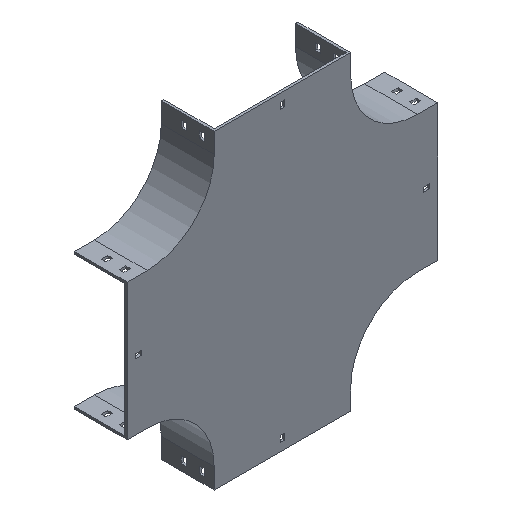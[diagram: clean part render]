
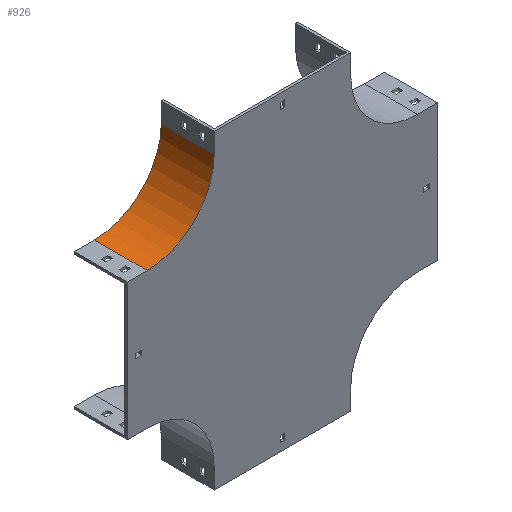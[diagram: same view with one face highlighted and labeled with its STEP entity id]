
A CAD part, isometric view. The second image highlights one B-rep face of the part: STEP entity #926.
In plain terms, the highlighted cylindrical face has radius 100 mm (diameter 200 mm), a partial arc.
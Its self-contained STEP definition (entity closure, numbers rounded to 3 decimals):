
#116 = VERTEX_POINT ( 'NONE', #2611 ) ;
#272 = DIRECTION ( 'NONE',  ( 0., 0., 1. ) ) ;
#308 = EDGE_LOOP ( 'NONE', ( #2560, #1340, #1933, #2970 ) ) ;
#318 = EDGE_CURVE ( 'NONE', #116, #3493, #2922, .T. ) ;
#377 = FACE_OUTER_BOUND ( 'NONE', #308, .T. ) ;
#576 = CIRCLE ( 'NONE', #705, 100. ) ;
#580 = CARTESIAN_POINT ( 'NONE',  ( -404., 79., 0. ) ) ;
#705 = AXIS2_PLACEMENT_3D ( 'NONE', #3594, #2908, #272 ) ;
#723 = DIRECTION ( 'NONE',  ( 0., -1., 0. ) ) ;
#806 = VERTEX_POINT ( 'NONE', #2766 ) ;
#926 = ADVANCED_FACE ( 'NONE', ( #377 ), #3619, .F. ) ;
#1139 = CARTESIAN_POINT ( 'NONE',  ( -404., 0., -100. ) ) ;
#1235 = LINE ( 'NONE', #1492, #2818 ) ;
#1340 = ORIENTED_EDGE ( 'NONE', *, *, #3074, .F. ) ;
#1455 = CARTESIAN_POINT ( 'NONE',  ( -304., 79., 0. ) ) ;
#1492 = CARTESIAN_POINT ( 'NONE',  ( -404., 79., -100. ) ) ;
#1660 = EDGE_CURVE ( 'NONE', #1955, #806, #576, .T. ) ;
#1710 = LINE ( 'NONE', #1455, #3121 ) ;
#1933 = ORIENTED_EDGE ( 'NONE', *, *, #318, .F. ) ;
#1955 = VERTEX_POINT ( 'NONE', #1139 ) ;
#2108 = AXIS2_PLACEMENT_3D ( 'NONE', #580, #3320, #3550 ) ;
#2155 = DIRECTION ( 'NONE',  ( 0., 0., 1. ) ) ;
#2221 = CARTESIAN_POINT ( 'NONE',  ( -304., 79., 0. ) ) ;
#2258 = EDGE_CURVE ( 'NONE', #116, #1955, #1235, .T. ) ;
#2560 = ORIENTED_EDGE ( 'NONE', *, *, #1660, .T. ) ;
#2611 = CARTESIAN_POINT ( 'NONE',  ( -404., 79., -100. ) ) ;
#2681 = DIRECTION ( 'NONE',  ( 0., -1., 0. ) ) ;
#2766 = CARTESIAN_POINT ( 'NONE',  ( -304., 0., 0. ) ) ;
#2818 = VECTOR ( 'NONE', #2681, 1000. ) ;
#2908 = DIRECTION ( 'NONE',  ( 0., -1., 0. ) ) ;
#2922 = CIRCLE ( 'NONE', #3442, 100. ) ;
#2970 = ORIENTED_EDGE ( 'NONE', *, *, #2258, .T. ) ;
#3074 = EDGE_CURVE ( 'NONE', #3493, #806, #1710, .T. ) ;
#3111 = CARTESIAN_POINT ( 'NONE',  ( -404., 79., 0. ) ) ;
#3121 = VECTOR ( 'NONE', #3204, 1000. ) ;
#3204 = DIRECTION ( 'NONE',  ( 0., -1., 0. ) ) ;
#3320 = DIRECTION ( 'NONE',  ( 0., -1., 0. ) ) ;
#3442 = AXIS2_PLACEMENT_3D ( 'NONE', #3111, #723, #2155 ) ;
#3493 = VERTEX_POINT ( 'NONE', #2221 ) ;
#3550 = DIRECTION ( 'NONE',  ( 0., 0., -1. ) ) ;
#3594 = CARTESIAN_POINT ( 'NONE',  ( -404., 0., 0. ) ) ;
#3619 = CYLINDRICAL_SURFACE ( 'NONE', #2108, 100. ) ;
